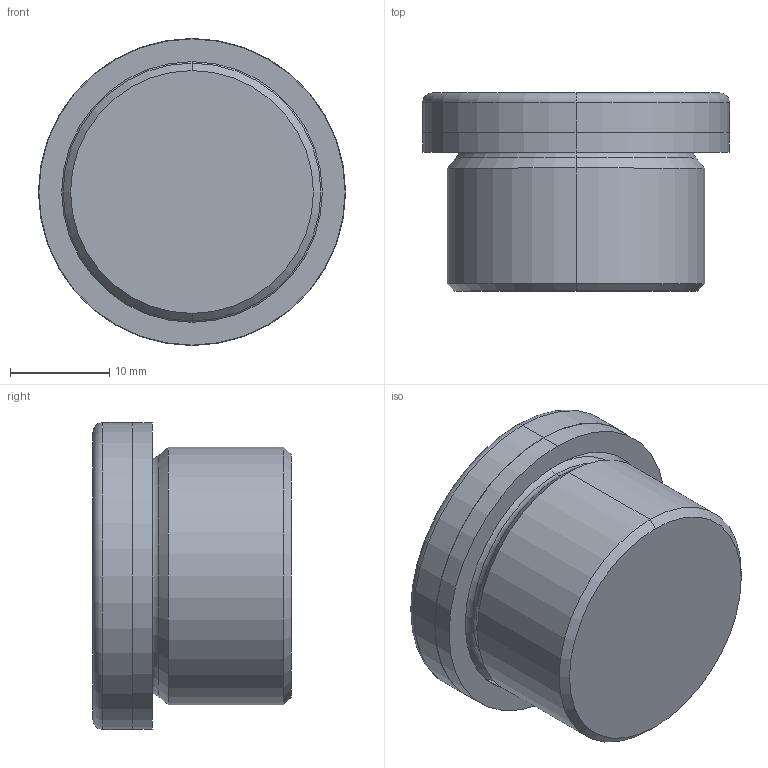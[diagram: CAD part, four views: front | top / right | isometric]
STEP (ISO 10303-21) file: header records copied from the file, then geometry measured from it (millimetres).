
FILE_DESCRIPTION (( 'STEP AP214' ), '1' );
FILE_NAME ('908-ST-M26x1,5-AN.step', '2024-12-19T09:19:15', ( '' ), ( '' ), 'SwSTEP 2.0', 'SolidWorks 2022', '' );
FILE_SCHEMA (( 'AUTOMOTIVE_DESIGN' ));
Length unit declared in the file: millimetre
Products named in the file (1): 908-ST-M26x1,5-AN
Bounding box: 31 x 20 x 31 mm (x, y, z)
Volume: 10568.1 mm3; surface area: 3901.5 mm2
Topology: 1 solids, 1 shells, 31 faces, 64 edges, 38 vertices
Faces by surface type: plane 11, cylinder 8, torus 6, cone 6
Entity records: 929 total; most frequent: DIRECTION 160, CARTESIAN_POINT 134, ORIENTED_EDGE 128, AXIS2_PLACEMENT_3D 64, EDGE_CURVE 64, VERTEX_POINT 38, EDGE_LOOP 34, CIRCLE 32
